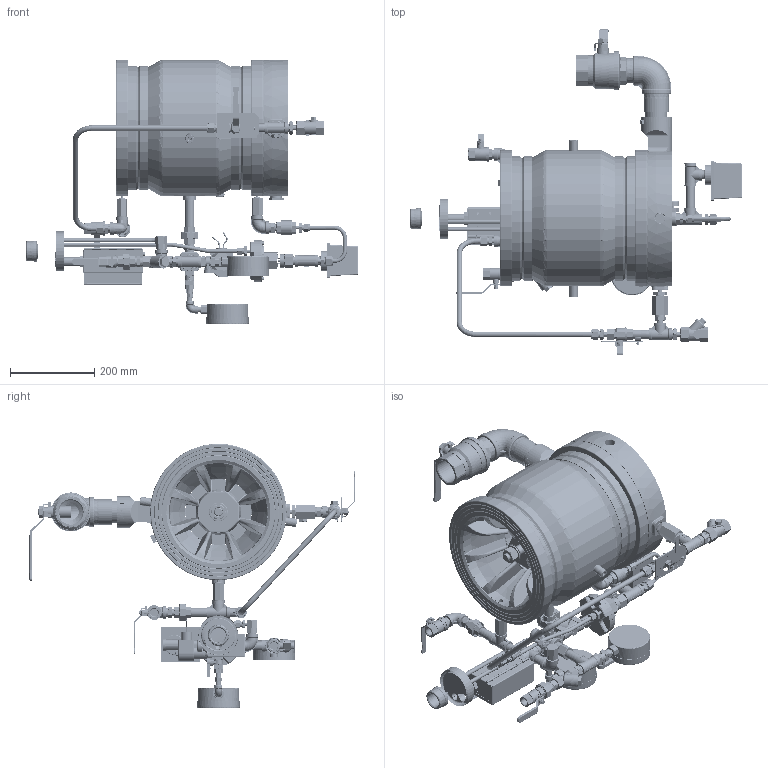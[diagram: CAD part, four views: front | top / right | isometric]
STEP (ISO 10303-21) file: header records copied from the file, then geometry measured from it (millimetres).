
FILE_DESCRIPTION(/* description */ (''),/* implementation_level */ '2;1');
FILE_NAME(/* name */ '799DX-04K01 FM Trim 10in.stp',/* time_stamp */ '2024-02-11T15:10:56+02:00',/* author */ ('alex'),/* organization */ (''),/* preprocessor_version */ 'ST-DEVELOPER v20',/* originating_system */ 'Autodesk Inventor 2024',/* authorisation */ '');
FILE_SCHEMA (('AUTOMOTIVE_DESIGN { 1 0 10303 214 3 1 1 }'));
Length unit declared in the file: millimetre
Products named in the file (1): 799DX-04K01 FM Trim 10in STEP
Bounding box: 789.4 x 773.13 x 628.43 mm (x, y, z)
Volume: 15796292.6 mm3; surface area: 2831054.6 mm2
Topology: 12 solids, 65 shells, 5689 faces, 14129 edges, 8870 vertices
Faces by surface type: plane 2756, cone 1184, cylinder 1168, bspline 395, torus 176, sphere 10
Full cylindrical faces by diameter (mm): 1.5 x4, 2 x7, 3 x14, 3.7 x2, 4 x20, 4.134 x2, 4.2 x4, 4.7 x1, 4.8 x1, 4.978 x6, 5 x32, 5.2 x10, 5.3 x1, 5.5 x4, 6 x6, 6.2 x1, 6.33 x4, 6.35 x2, 6.4 x4, 6.5 x7, 7 x13, 7.036 x8, 7.3 x1, 7.515 x4, 7.6 x1, 8 x5, 8.1 x1, 8.3 x1, 8.376 x3, 8.5 x17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
Entity records: 205101 total; most frequent: CARTESIAN_POINT 69467, ORIENTED_EDGE 28064, DIRECTION 26059, EDGE_CURVE 14032, AXIS2_PLACEMENT_3D 9908, VERTEX_POINT 8835, EDGE_LOOP 6439, LINE 6243
